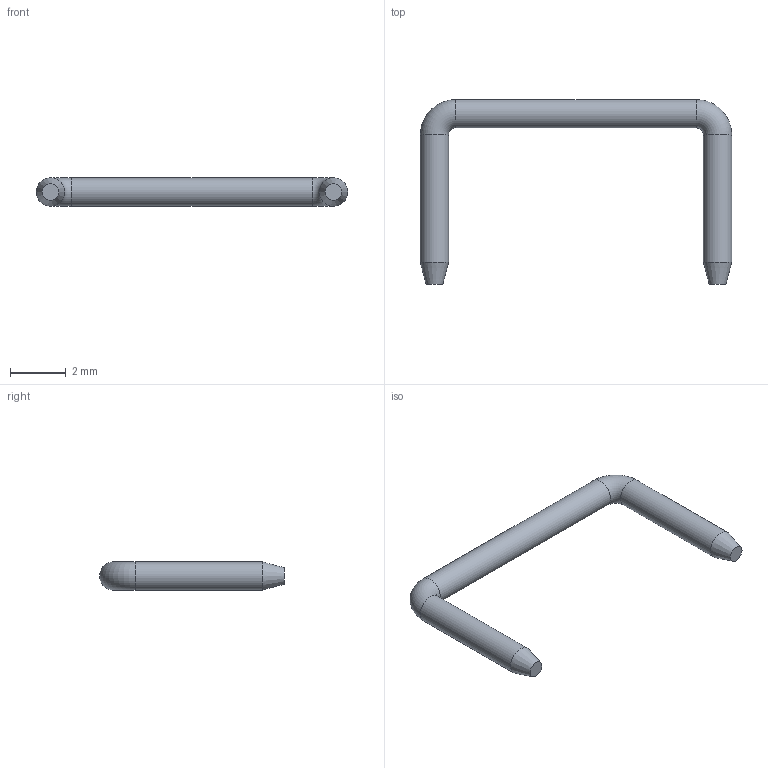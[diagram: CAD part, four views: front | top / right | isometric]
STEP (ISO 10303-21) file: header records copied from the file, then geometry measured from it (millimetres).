
FILE_DESCRIPTION(/* description */ (''),/* implementation_level */ '2;1');
FILE_NAME(/* name */ 'Z:\STEP folder\360-0017-04.ipt.stp',/* time_stamp */ '2016-12-07T16:22:10+00:00',/* author */ ('Paul Karlsons'),/* organization */ (''),/* preprocessor_version */ 'ST-DEVELOPER v15.2',/* originating_system */ 'Autodesk Inventor 2014',/* authorisation */ '');
FILE_SCHEMA (('AUTOMOTIVE_DESIGN { 1 0 10303 214 3 1 1 }'));
Length unit declared in the file: millimetre
Products named in the file (1): 360-0017-04
Bounding box: 11.18 x 6.63 x 1.02 mm (x, y, z)
Volume: 17.2 mm3; surface area: 69.1 mm2
Topology: 1 solids, 1 shells, 9 faces, 15 edges, 8 vertices
Faces by surface type: cylinder 3, cone 2, plane 2, torus 2
Full cylindrical faces by diameter (mm): 1.016 x3
Entity records: 195 total; most frequent: DIRECTION 36, CARTESIAN_POINT 26, AXIS2_PLACEMENT_3D 18, EDGE_LOOP 16, ORIENTED_EDGE 16, FACE_OUTER_BOUND 9, ADVANCED_FACE 9, CIRCLE 8
